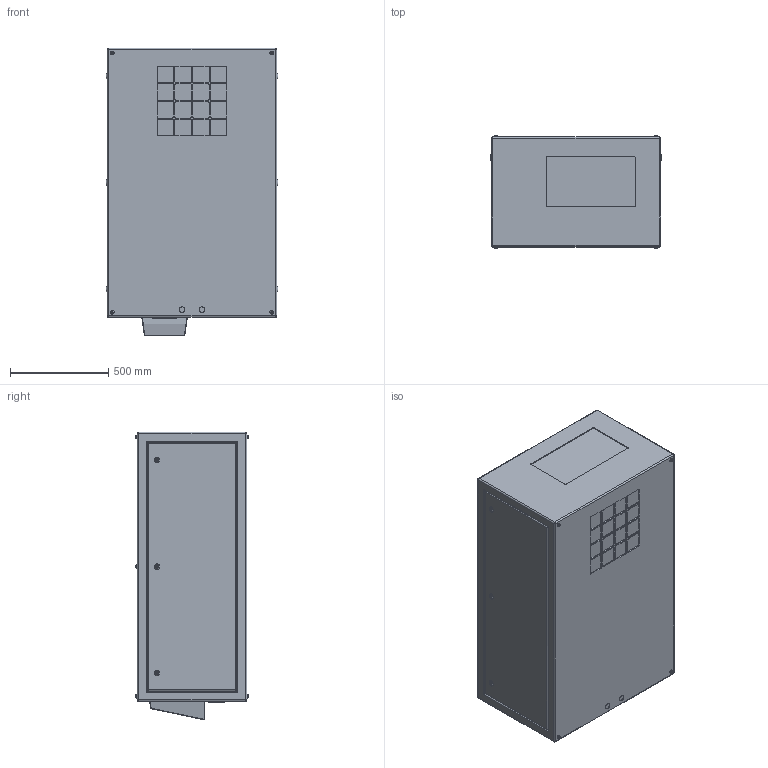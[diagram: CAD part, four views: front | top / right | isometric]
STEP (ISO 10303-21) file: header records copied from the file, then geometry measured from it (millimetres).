
FILE_DESCRIPTION (( 'STEP AP214' ), '1' );
FILE_NAME ('Cyclone 55.310.L R10.STEP', '2022-09-08T19:06:08', ( '' ), ( '' ), 'SwSTEP 2.0', 'SolidWorks 2020', '' );
FILE_SCHEMA (( 'AUTOMOTIVE_DESIGN' ));
Length unit declared in the file: inch
Products named in the file (1): Cyclone 55.310.L R10
Bounding box: 876.3 x 573.4 x 1466.85 mm (x, y, z)
Volume: 660505820.7 mm3; surface area: 5341362.4 mm2
Topology: 1 solids, 7 shells, 532 faces, 1256 edges, 804 vertices
Faces by surface type: plane 260, cylinder 220, torus 44, sphere 8
Entity records: 19325 total; most frequent: CARTESIAN_POINT 3129, DIRECTION 2694, ORIENTED_EDGE 2496, EDGE_CURVE 1248, AXIS2_PLACEMENT_3D 1009, VERTEX_POINT 804, VECTOR 676, LINE 676
